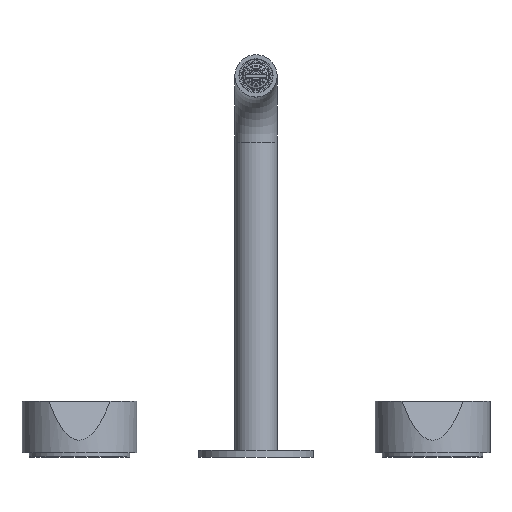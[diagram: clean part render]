
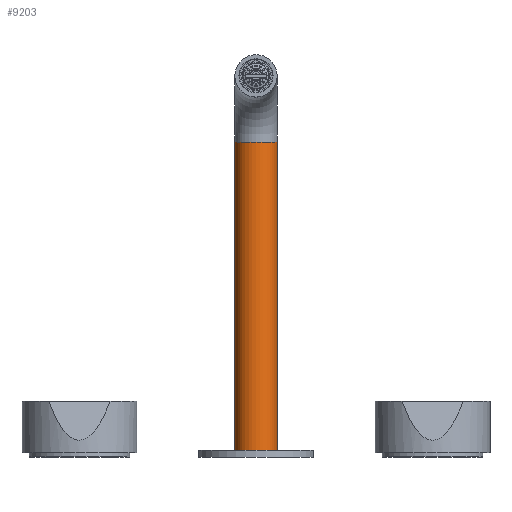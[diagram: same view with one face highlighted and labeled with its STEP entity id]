
A CAD part, top view. The second image highlights one B-rep face of the part: STEP entity #9203.
In plain terms, the highlighted cylindrical face has radius 12 mm (diameter 24 mm), a partial arc.
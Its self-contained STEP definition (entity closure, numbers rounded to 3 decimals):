
#4213=CARTESIAN_POINT('',(100.,229.,0.));
#4214=DIRECTION('',(0.,-1.,0.));
#4215=DIRECTION('',(1.,0.,0.));
#4216=AXIS2_PLACEMENT_3D('',#4213,#4214,#4215);
#4233=DIRECTION('',(0.,-1.,0.));
#4234=VECTOR('',#4233,175.);
#4235=CARTESIAN_POINT('',(112.,229.,0.));
#4236=LINE('',#4235,#4234);
#4237=DIRECTION('',(0.,-1.,0.));
#4238=VECTOR('',#4237,175.);
#4239=CARTESIAN_POINT('',(88.,229.,0.));
#4240=LINE('',#4239,#4238);
#4241=CARTESIAN_POINT('',(100.,54.,0.));
#4242=DIRECTION('',(0.,-1.,0.));
#4243=DIRECTION('',(1.,0.,0.));
#4244=AXIS2_PLACEMENT_3D('',#4241,#4242,#4243);
#5715=CARTESIAN_POINT('',(112.,229.,0.));
#5716=CARTESIAN_POINT('',(112.,54.,0.));
#5717=VERTEX_POINT('',#5715);
#5718=VERTEX_POINT('',#5716);
#5719=CARTESIAN_POINT('',(88.,54.,0.));
#5720=VERTEX_POINT('',#5719);
#5721=CARTESIAN_POINT('',(88.,229.,0.));
#5722=VERTEX_POINT('',#5721);
#9191=CARTESIAN_POINT('',(100.,54.,0.));
#9192=DIRECTION('',(0.,-1.,0.));
#9193=DIRECTION('',(-1.,0.,0.));
#9194=AXIS2_PLACEMENT_3D('',#9191,#9192,#9193);
#9195=CYLINDRICAL_SURFACE('',#9194,12.);
#9196=ORIENTED_EDGE('',*,*,#9135,.F.);
#9197=ORIENTED_EDGE('',*,*,#9179,.T.);
#9199=ORIENTED_EDGE('',*,*,#9198,.T.);
#9200=ORIENTED_EDGE('',*,*,#9175,.F.);
#9201=EDGE_LOOP('',(#9196,#9197,#9199,#9200));
#9202=FACE_OUTER_BOUND('',#9201,.F.);
#4217=CIRCLE('',#4216,12.);
#4245=CIRCLE('',#4244,12.);
#9135=EDGE_CURVE('',#5717,#5722,#4217,.T.);
#9175=EDGE_CURVE('',#5722,#5720,#4240,.T.);
#9179=EDGE_CURVE('',#5717,#5718,#4236,.T.);
#9198=EDGE_CURVE('',#5718,#5720,#4245,.T.);
#9203=ADVANCED_FACE('',(#9202),#9195,.T.);
